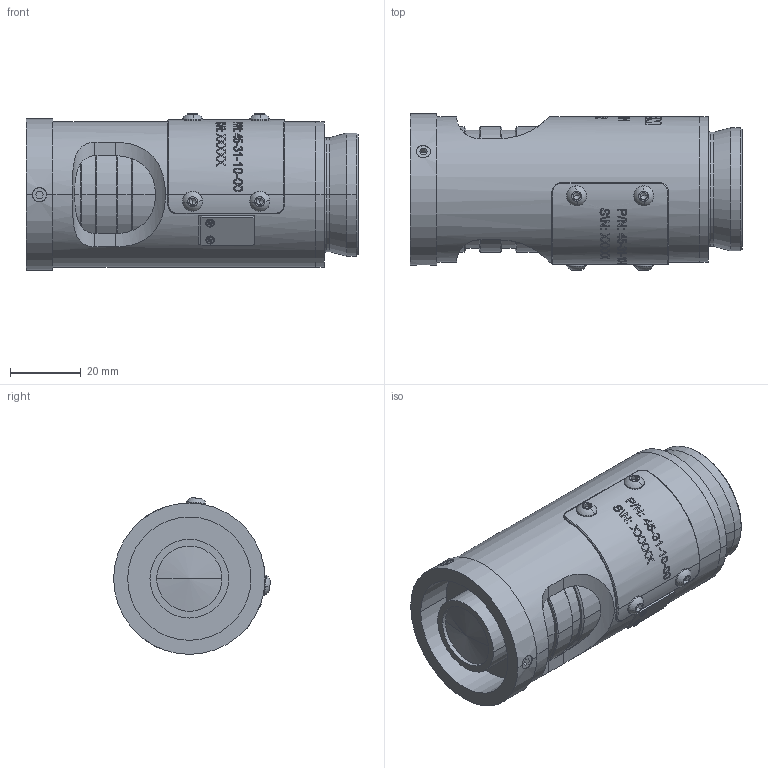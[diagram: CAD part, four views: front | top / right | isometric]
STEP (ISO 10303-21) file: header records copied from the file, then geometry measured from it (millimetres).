
FILE_DESCRIPTION (( 'STEP AP203' ), '1' );
FILE_NAME ('45-31-10-000 OUTLINE.STEP', '2020-07-13T21:58:57', ( '' ), ( '' ), 'SwSTEP 2.0', 'SolidWorks 2018', '' );
FILE_SCHEMA (( 'CONFIG_CONTROL_DESIGN' ));
Length unit declared in the file: inch
Products named in the file (1): 45-31-10-000 OUTLINE
Bounding box: 94.08 x 44.41 x 44.41 mm (x, y, z)
Volume: 101040.9 mm3; surface area: 26901 mm2
Topology: 9 solids, 9 shells, 956 faces, 2492 edges, 1626 vertices
Faces by surface type: plane 419, bspline 255, cylinder 178, cone 64, torus 32, sphere 8
Entity records: 51654 total; most frequent: CARTESIAN_POINT 30272, ORIENTED_EDGE 4936, DIRECTION 3540, EDGE_CURVE 2468, VERTEX_POINT 1626, AXIS2_PLACEMENT_3D 1339, EDGE_LOOP 1068, B_SPLINE_CURVE_WITH_KNOTS 969
